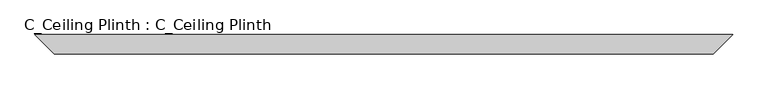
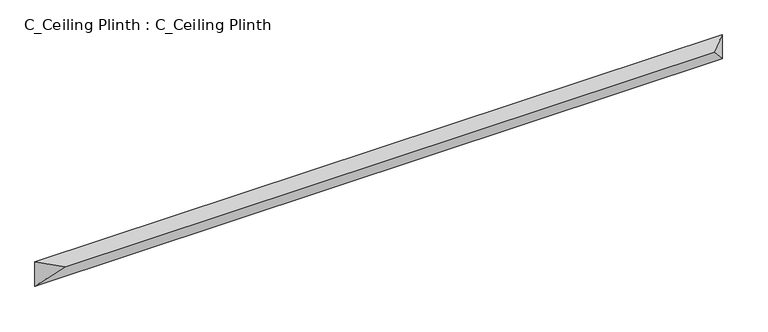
"""IFC4 building model written with IfcOpenShell, lengths in millimetres: proxy geometry, C_Ceiling Plinth : C_Ceiling Plinth."""

from ifc_helpers import new_model, si_unit, origin, place, context, project, spatial, faceted_brep, source, transform, mapped, element, save


def c_ceiling_plinth_c_ceiling_plinth_449aa241(model_context):
    return source(origin(), model_context, "Body", "Brep", [
        faceted_brep([(2743.2, 0.0, 0.0), (2743.2, 0.0, -101.6), (0.0, 0.0, -101.6), (0.0, 0.0, 0.0), (2667.0, -76.2, 0.0), (76.2, -76.2, 0.0)], [[[0, 1, 2, 3]], [[4, 0, 3, 5]], [[1, 4, 5, 2]], [[1, 0, 4]], [[3, 2, 5]]]),
    ])


if __name__ == "__main__":
    model = new_model("IFC4")
    model_context = context("Model", 3, world=origin())
    ifc_project = project(units=[si_unit("LENGTHUNIT", "METRE", prefix="MILLI")], contexts=[model_context])
    site = spatial("IfcSite", under=ifc_project)
    building = spatial("IfcBuilding", under=site)
    placement = place(None, origin())
    c_ceiling_plinth_c_ceiling_plinth_shape = c_ceiling_plinth_c_ceiling_plinth_449aa241(model_context)
    element("IfcBuildingElementProxy", 1, Name="C_Ceiling Plinth : C_Ceiling Plinth", ObjectType="C_Ceiling Plinth : C_Ceiling Plinth", at=placement, inside=building, context=model_context, shape_type="MappedRepresentation", body=[
        mapped(c_ceiling_plinth_c_ceiling_plinth_shape, transform((0.0, 0.0, 0.0), x_axis=(1.0, 0.0, 0.0), y_axis=(0.0, 1.0, 0.0), z_axis=(0.0, 0.0, 1.0))),
    ])
    save(model, "model.ifc")
